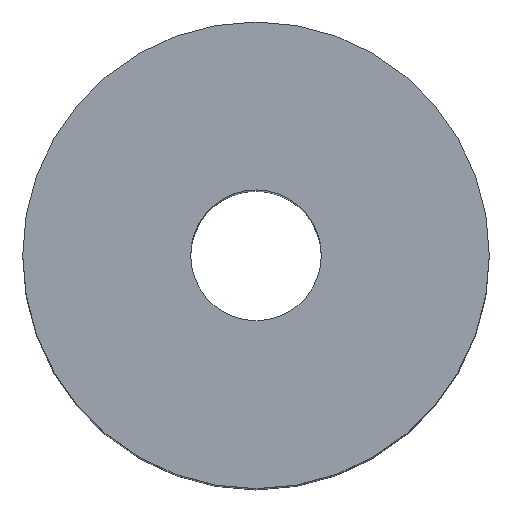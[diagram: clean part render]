
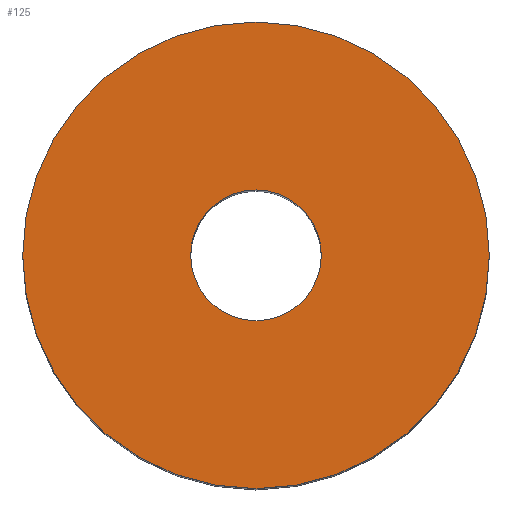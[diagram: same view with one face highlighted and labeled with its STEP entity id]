
A CAD part, top view. The second image highlights one B-rep face of the part: STEP entity #125.
In plain terms, the highlighted planar face has unit normal (0, 0, 1).
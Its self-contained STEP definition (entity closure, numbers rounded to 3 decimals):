
#125=ADVANCED_FACE('',(#137,#138),#135,.T.);
#135=PLANE('',#244);
#137=FACE_BOUND('',#141,.T.);
#138=FACE_BOUND('',#142,.T.);
#141=EDGE_LOOP('',(#153,#154));
#142=EDGE_LOOP('',(#155,#156));
#153=ORIENTED_EDGE('',*,*,#205,.T.);
#154=ORIENTED_EDGE('',*,*,#206,.T.);
#155=ORIENTED_EDGE('',*,*,#207,.F.);
#156=ORIENTED_EDGE('',*,*,#208,.F.);
#193=VERTEX_POINT('',#322);
#194=VERTEX_POINT('',#323);
#195=VERTEX_POINT('',#326);
#196=VERTEX_POINT('',#327);
#205=EDGE_CURVE('',#193,#194,#225,.T.);
#206=EDGE_CURVE('',#194,#193,#226,.T.);
#207=EDGE_CURVE('',#195,#196,#227,.T.);
#208=EDGE_CURVE('',#196,#195,#228,.T.);
#225=CIRCLE('',#240,25.);
#226=CIRCLE('',#241,25.);
#227=CIRCLE('',#242,7.);
#228=CIRCLE('',#243,7.);
#240=AXIS2_PLACEMENT_3D('',#321,#266,#267);
#241=AXIS2_PLACEMENT_3D('',#324,#268,#269);
#242=AXIS2_PLACEMENT_3D('',#325,#270,#271);
#243=AXIS2_PLACEMENT_3D('',#328,#272,#273);
#244=AXIS2_PLACEMENT_3D('',#329,#274,#275);
#266=DIRECTION('',(0.,0.,1.));
#267=DIRECTION('',(0.,1.,0.));
#268=DIRECTION('',(0.,0.,1.));
#269=DIRECTION('',(0.,-1.,0.));
#270=DIRECTION('',(0.,0.,1.));
#271=DIRECTION('',(0.,-1.,0.));
#272=DIRECTION('',(0.,0.,1.));
#273=DIRECTION('',(0.,1.,0.));
#274=DIRECTION('',(0.,0.,1.));
#275=DIRECTION('',(0.,1.,0.));
#321=CARTESIAN_POINT('',(0.,0.,82.));
#322=CARTESIAN_POINT('',(-25.,0.,82.));
#323=CARTESIAN_POINT('',(25.,0.,82.));
#324=CARTESIAN_POINT('',(0.,0.,82.));
#325=CARTESIAN_POINT('',(0.,0.,82.));
#326=CARTESIAN_POINT('',(7.,0.,82.));
#327=CARTESIAN_POINT('',(-7.,0.,82.));
#328=CARTESIAN_POINT('',(0.,0.,82.));
#329=CARTESIAN_POINT('',(0.,0.,82.));
